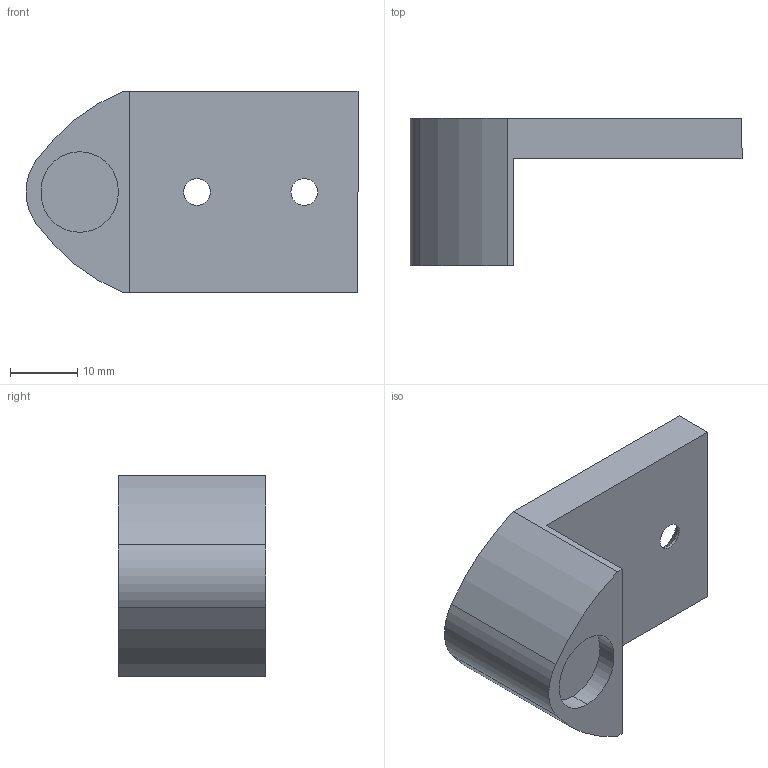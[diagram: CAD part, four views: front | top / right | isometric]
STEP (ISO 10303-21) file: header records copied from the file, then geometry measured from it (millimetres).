
FILE_DESCRIPTION (( 'STEP AP214' ), '1' );
FILE_NAME ('Halter_Rückwand_Anschrauben_links_K760606100.step', '2010-09-07T13:19:42', ( 'grass' ), ( '' ), 'SwSTEP 2.0', 'SolidWorks 2010', '' );
FILE_SCHEMA (( 'AUTOMOTIVE_DESIGN' ));
Length unit declared in the file: millimetre
Products named in the file (1): Halter_Rückwand_Anschrauben_links_K760606100
Bounding box: 49.5 x 22 x 30 mm (x, y, z)
Volume: 9646.9 mm3; surface area: 5091 mm2
Topology: 1 solids, 1 shells, 32 faces, 79 edges, 50 vertices
Faces by surface type: cylinder 14, plane 14, cone 4
Entity records: 989 total; most frequent: DIRECTION 173, CARTESIAN_POINT 162, ORIENTED_EDGE 158, EDGE_CURVE 79, AXIS2_PLACEMENT_3D 61, LINE 51, VECTOR 51, VERTEX_POINT 50
